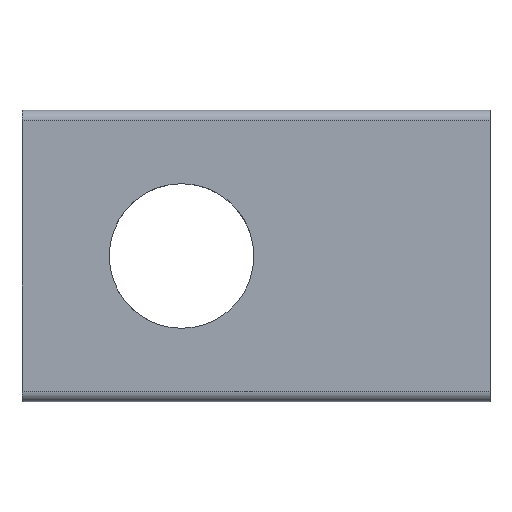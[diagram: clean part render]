
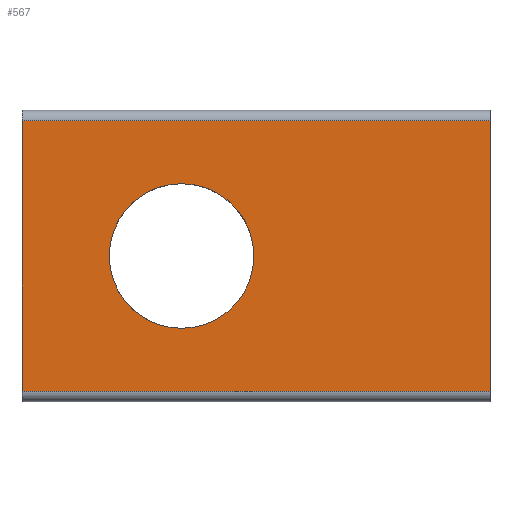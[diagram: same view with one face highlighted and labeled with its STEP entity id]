
A CAD part, top view. The second image highlights one B-rep face of the part: STEP entity #567.
In plain terms, the highlighted planar face has unit normal (0, 0, 1).
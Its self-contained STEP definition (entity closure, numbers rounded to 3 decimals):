
#12 = EDGE_LOOP ( 'NONE', ( #575, #553, #550, #475 ) ) ;
#14 = CARTESIAN_POINT ( 'NONE',  ( 14.5, 6.35, 0. ) ) ;
#32 = VERTEX_POINT ( 'NONE', #539 ) ;
#60 = DIRECTION ( 'NONE',  ( 0., 0., 1. ) ) ;
#82 = EDGE_LOOP ( 'NONE', ( #416, #489 ) ) ;
#116 = CARTESIAN_POINT ( 'NONE',  ( 0., 0., 0. ) ) ;
#119 = EDGE_CURVE ( 'NONE', #270, #464, #552, .T. ) ;
#120 = DIRECTION ( 'NONE',  ( 1., 0., 0. ) ) ;
#123 = EDGE_CURVE ( 'NONE', #612, #270, #500, .T. ) ;
#131 = DIRECTION ( 'NONE',  ( 1., 0., 0. ) ) ;
#159 = DIRECTION ( 'NONE',  ( -1., 0., 0. ) ) ;
#161 = CARTESIAN_POINT ( 'NONE',  ( 14.5, 6.35, 0. ) ) ;
#171 = CARTESIAN_POINT ( 'NONE',  ( 3.4, 0., 0. ) ) ;
#183 = CARTESIAN_POINT ( 'NONE',  ( -3.4, 0., 0. ) ) ;
#191 = EDGE_CURVE ( 'NONE', #32, #464, #205, .T. ) ;
#195 = VECTOR ( 'NONE', #381, 1000. ) ;
#204 = FACE_OUTER_BOUND ( 'NONE', #12, .T. ) ;
#205 = LINE ( 'NONE', #442, #435 ) ;
#215 = CARTESIAN_POINT ( 'NONE',  ( 14.5, 6.35, 0. ) ) ;
#218 = FACE_BOUND ( 'NONE', #82, .T. ) ;
#229 = CIRCLE ( 'NONE', #279, 3.4 ) ;
#241 = CARTESIAN_POINT ( 'NONE',  ( -7.5, -6.35, 0. ) ) ;
#243 = EDGE_CURVE ( 'NONE', #612, #32, #431, .T. ) ;
#245 = CARTESIAN_POINT ( 'NONE',  ( -7.5, 6.35, 0. ) ) ;
#255 = DIRECTION ( 'NONE',  ( 0., 0., -1. ) ) ;
#270 = VERTEX_POINT ( 'NONE', #282 ) ;
#279 = AXIS2_PLACEMENT_3D ( 'NONE', #421, #617, #131 ) ;
#282 = CARTESIAN_POINT ( 'NONE',  ( -7.5, 6.35, 0. ) ) ;
#289 = CIRCLE ( 'NONE', #548, 3.4 ) ;
#300 = DIRECTION ( 'NONE',  ( 0., -1., 0. ) ) ;
#354 = VERTEX_POINT ( 'NONE', #171 ) ;
#358 = VERTEX_POINT ( 'NONE', #183 ) ;
#374 = AXIS2_PLACEMENT_3D ( 'NONE', #161, #255, #450 ) ;
#381 = DIRECTION ( 'NONE',  ( 0., -1., 0. ) ) ;
#405 = EDGE_CURVE ( 'NONE', #354, #358, #229, .T. ) ;
#416 = ORIENTED_EDGE ( 'NONE', *, *, #405, .F. ) ;
#421 = CARTESIAN_POINT ( 'NONE',  ( 0., 0., 0. ) ) ;
#431 = LINE ( 'NONE', #581, #195 ) ;
#435 = VECTOR ( 'NONE', #593, 1000. ) ;
#442 = CARTESIAN_POINT ( 'NONE',  ( 14.5, -6.35, 0. ) ) ;
#450 = DIRECTION ( 'NONE',  ( -1., 0., 0. ) ) ;
#464 = VERTEX_POINT ( 'NONE', #241 ) ;
#475 = ORIENTED_EDGE ( 'NONE', *, *, #123, .T. ) ;
#489 = ORIENTED_EDGE ( 'NONE', *, *, #527, .F. ) ;
#500 = LINE ( 'NONE', #14, #619 ) ;
#527 = EDGE_CURVE ( 'NONE', #358, #354, #289, .T. ) ;
#539 = CARTESIAN_POINT ( 'NONE',  ( 14.5, -6.35, 0. ) ) ;
#547 = VECTOR ( 'NONE', #300, 1000. ) ;
#548 = AXIS2_PLACEMENT_3D ( 'NONE', #116, #60, #120 ) ;
#550 = ORIENTED_EDGE ( 'NONE', *, *, #243, .F. ) ;
#552 = LINE ( 'NONE', #245, #547 ) ;
#553 = ORIENTED_EDGE ( 'NONE', *, *, #191, .F. ) ;
#567 = ADVANCED_FACE ( 'NONE', ( #218, #204 ), #608, .F. ) ;
#575 = ORIENTED_EDGE ( 'NONE', *, *, #119, .T. ) ;
#581 = CARTESIAN_POINT ( 'NONE',  ( 14.5, 6.35, 0. ) ) ;
#593 = DIRECTION ( 'NONE',  ( -1., 0., 0. ) ) ;
#608 = PLANE ( 'NONE',  #374 ) ;
#612 = VERTEX_POINT ( 'NONE', #215 ) ;
#617 = DIRECTION ( 'NONE',  ( 0., 0., 1. ) ) ;
#619 = VECTOR ( 'NONE', #159, 1000. ) ;
